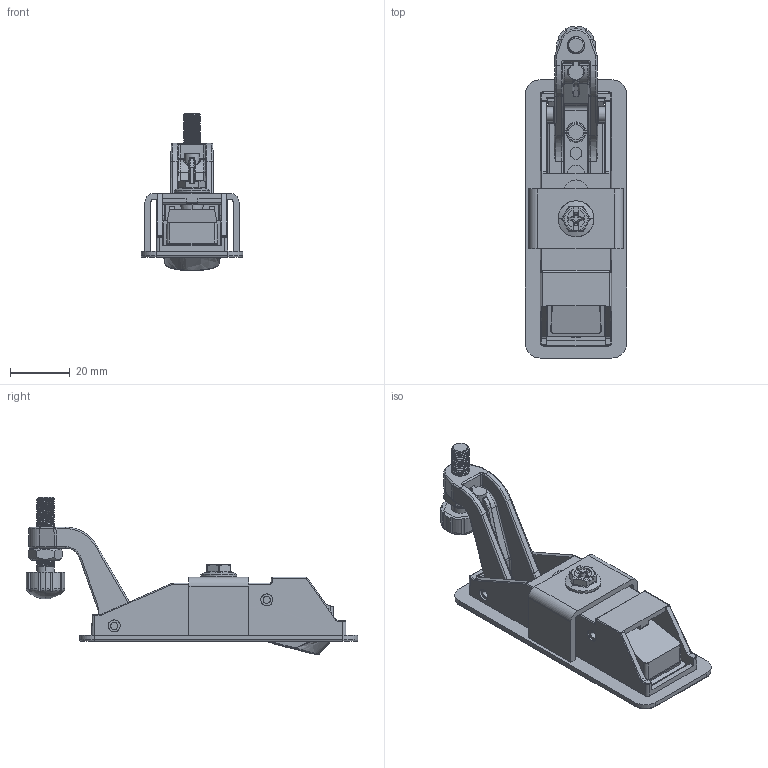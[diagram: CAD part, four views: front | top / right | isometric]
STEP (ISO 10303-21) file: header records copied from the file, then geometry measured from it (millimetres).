
FILE_DESCRIPTION (( 'STEP AP214' ), '1' );
FILE_NAME ('MS719-1X平面锁.STEP', '2020-01-10T04:51:19', ( 'China' ), ( 'User' ), 'SwSTEP 2.0', 'SolidWorks 2018', '' );
FILE_SCHEMA (( 'AUTOMOTIVE_DESIGN' ));
Length unit declared in the file: millimetre
Products named in the file (14): M6X25LUODING^LUODINGZUJIAN_ASM_ms719-1c_asm(2)_ms719-1c_asm; FANBAN^L2B0160_ASM_ms719-1c_asm(2)_ms719-1c_asm; LUOMU^ms719-1c_asm(2)_ms719-1c_asm; BUTTON^ms719-1c_asm(2)_ms719-1c_asm; YABAN-718^ms719-1c_asm(2)_ms719-1c_asm; HOUSING^ms719-1c_asm(2)_ms719-1c_asm; XIAOZI^L2B0160_ASM_ms719-1c_asm(2)_ms719-1c_asm; L2B0160_ASM^ms719-1c_asm(2)_ms719-1c_asm; LUODINGZUJIAN_ASM^ms719-1c_asm(2)_ms719-1c_asm; MS719-1Xす醱坶; SHOUBING-719^ms719-1c_asm(2)_ms719-1c_asm; LUODINGTOU^LUODINGZUJIAN_ASM_ms719-1c_asm(2)_ms719-1c_asm; DIEXINGLUOSHUANG-M5X8^ms719-1c_asm(2)_ms719-1c_asm; SUOMAO^L2B0160_ASM_ms719-1c_asm(2)_ms719-1c_asm
Assembly tree (13 placements, depth 3):
  MS719-1Xす醱坶
    L2B0160_ASM^ms719-1c_asm(2)_ms719-1c_asm
      FANBAN^L2B0160_ASM_ms719-1c_asm(2)_ms719-1c_asm
      XIAOZI^L2B0160_ASM_ms719-1c_asm(2)_ms719-1c_asm
      SUOMAO^L2B0160_ASM_ms719-1c_asm(2)_ms719-1c_asm
    LUODINGZUJIAN_ASM^ms719-1c_asm(2)_ms719-1c_asm
      M6X25LUODING^LUODINGZUJIAN_ASM_ms719-1c_asm(2)_ms719-1c_asm
      LUODINGTOU^LUODINGZUJIAN_ASM_ms719-1c_asm(2)_ms719-1c_asm
    HOUSING^ms719-1c_asm(2)_ms719-1c_asm
    BUTTON^ms719-1c_asm(2)_ms719-1c_asm
    SHOUBING-719^ms719-1c_asm(2)_ms719-1c_asm
    YABAN-718^ms719-1c_asm(2)_ms719-1c_asm
    DIEXINGLUOSHUANG-M5X8^ms719-1c_asm(2)_ms719-1c_asm
    LUOMU^ms719-1c_asm(2)_ms719-1c_asm
Bounding box: 34 x 110.98 x 52.63 mm (x, y, z)
Volume: 4796.9 mm3; surface area: 27811.5 mm2
Topology: 7 solids, 15 shells, 1087 faces, 2725 edges, 1652 vertices
Faces by surface type: cylinder 406, plane 254, bspline 251, torus 71, sphere 66, cone 39
Entity records: 50360 total; most frequent: CARTESIAN_POINT 26483, ORIENTED_EDGE 5322, DIRECTION 4249, EDGE_CURVE 2669, AXIS2_PLACEMENT_3D 1646, VERTEX_POINT 1626, EDGE_LOOP 1128, FACE_OUTER_BOUND 1087
